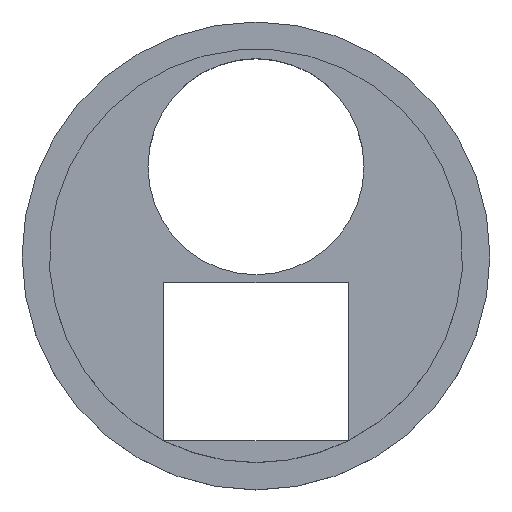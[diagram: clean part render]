
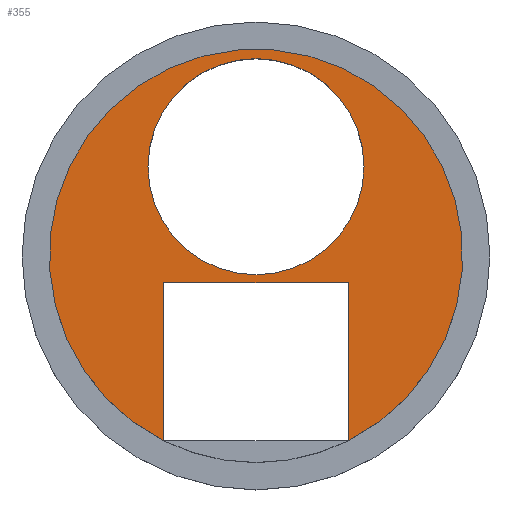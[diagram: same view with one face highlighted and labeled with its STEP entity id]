
A CAD part, top view. The second image highlights one B-rep face of the part: STEP entity #355.
In plain terms, the highlighted planar face has unit normal (0, 0, 1).
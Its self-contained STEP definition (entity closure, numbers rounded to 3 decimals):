
#209 = PLANE('',#210);
#210 = AXIS2_PLACEMENT_3D('',#211,#212,#213);
#211 = CARTESIAN_POINT('',(-8.3,-16.6,-6.));
#212 = DIRECTION('',(1.,0.,-0.));
#213 = DIRECTION('',(0.,0.,1.));
#235 = PLANE('',#236);
#236 = AXIS2_PLACEMENT_3D('',#237,#238,#239);
#237 = CARTESIAN_POINT('',(-8.3,-2.4,-6.));
#238 = DIRECTION('',(-0.,1.,0.));
#239 = DIRECTION('',(0.,0.,1.));
#259 = PLANE('',#260);
#260 = AXIS2_PLACEMENT_3D('',#261,#262,#263);
#261 = CARTESIAN_POINT('',(8.3,-16.6,-6.));
#262 = DIRECTION('',(1.,0.,-0.));
#263 = DIRECTION('',(0.,0.,1.));
#289 = CYLINDRICAL_SURFACE('',#290,9.7);
#290 = AXIS2_PLACEMENT_3D('',#291,#292,#293);
#291 = CARTESIAN_POINT('',(0.,8.,-6.));
#292 = DIRECTION('',(0.,0.,1.));
#293 = DIRECTION('',(1.,0.,-0.));
#304 = EDGE_CURVE('',#305,#305,#307,.T.);
#305 = VERTEX_POINT('',#306);
#306 = CARTESIAN_POINT('',(9.7,8.,7.));
#307 = SURFACE_CURVE('',#308,(#313,#320),.PCURVE_S1.);
#308 = CIRCLE('',#309,9.7);
#309 = AXIS2_PLACEMENT_3D('',#310,#311,#312);
#310 = CARTESIAN_POINT('',(0.,8.,7.));
#311 = DIRECTION('',(0.,0.,1.));
#312 = DIRECTION('',(1.,0.,-0.));
#313 = PCURVE('',#289,#314);
#314 = DEFINITIONAL_REPRESENTATION('',(#315),#319);
#315 = LINE('',#316,#317);
#316 = CARTESIAN_POINT('',(0.,13.));
#317 = VECTOR('',#318,1.);
#318 = DIRECTION('',(1.,0.));
#319 = ( GEOMETRIC_REPRESENTATION_CONTEXT(2) 
PARAMETRIC_REPRESENTATION_CONTEXT() REPRESENTATION_CONTEXT('2D SPACE',''
  ) );
#320 = PCURVE('',#321,#326);
#321 = PLANE('',#322);
#322 = AXIS2_PLACEMENT_3D('',#323,#324,#325);
#323 = CARTESIAN_POINT('',(0.,0.,7.));
#324 = DIRECTION('',(0.,0.,1.));
#325 = DIRECTION('',(1.,0.,-0.));
#326 = DEFINITIONAL_REPRESENTATION('',(#327),#331);
#327 = CIRCLE('',#328,9.7);
#328 = AXIS2_PLACEMENT_2D('',#329,#330);
#329 = CARTESIAN_POINT('',(0.,8.));
#330 = DIRECTION('',(1.,0.));
#331 = ( GEOMETRIC_REPRESENTATION_CONTEXT(2) 
PARAMETRIC_REPRESENTATION_CONTEXT() REPRESENTATION_CONTEXT('2D SPACE',''
  ) );
#355 = ADVANCED_FACE('',(#356,#454),#321,.T.);
#356 = FACE_BOUND('',#357,.T.);
#357 = EDGE_LOOP('',(#358,#381,#414,#435));
#358 = ORIENTED_EDGE('',*,*,#359,.F.);
#359 = EDGE_CURVE('',#360,#362,#364,.T.);
#360 = VERTEX_POINT('',#361);
#361 = CARTESIAN_POINT('',(8.3,-16.59,7.));
#362 = VERTEX_POINT('',#363);
#363 = CARTESIAN_POINT('',(8.3,-2.4,7.));
#364 = SURFACE_CURVE('',#365,(#369,#375),.PCURVE_S1.);
#365 = LINE('',#366,#367);
#366 = CARTESIAN_POINT('',(8.3,-8.3,7.));
#367 = VECTOR('',#368,1.);
#368 = DIRECTION('',(-0.,1.,0.));
#369 = PCURVE('',#321,#370);
#370 = DEFINITIONAL_REPRESENTATION('',(#371),#374);
#371 = B_SPLINE_CURVE_WITH_KNOTS('',1,(#372,#373),.UNSPECIFIED.,.F.,.F.,
  (2,2),(-8.3,5.9),.PIECEWISE_BEZIER_KNOTS.);
#372 = CARTESIAN_POINT('',(8.3,-16.6));
#373 = CARTESIAN_POINT('',(8.3,-2.4));
#374 = ( GEOMETRIC_REPRESENTATION_CONTEXT(2) 
PARAMETRIC_REPRESENTATION_CONTEXT() REPRESENTATION_CONTEXT('2D SPACE',''
  ) );
#375 = PCURVE('',#259,#376);
#376 = DEFINITIONAL_REPRESENTATION('',(#377),#380);
#377 = B_SPLINE_CURVE_WITH_KNOTS('',1,(#378,#379),.UNSPECIFIED.,.F.,.F.,
  (2,2),(-8.3,5.9),.PIECEWISE_BEZIER_KNOTS.);
#378 = CARTESIAN_POINT('',(13.,0.));
#379 = CARTESIAN_POINT('',(13.,-14.2));
#380 = ( GEOMETRIC_REPRESENTATION_CONTEXT(2) 
PARAMETRIC_REPRESENTATION_CONTEXT() REPRESENTATION_CONTEXT('2D SPACE',''
  ) );
#381 = ORIENTED_EDGE('',*,*,#382,.F.);
#382 = EDGE_CURVE('',#383,#360,#385,.T.);
#383 = VERTEX_POINT('',#384);
#384 = CARTESIAN_POINT('',(-8.3,-16.59,7.));
#385 = SURFACE_CURVE('',#386,(#391,#402),.PCURVE_S1.);
#386 = CIRCLE('',#387,18.55);
#387 = AXIS2_PLACEMENT_3D('',#388,#389,#390);
#388 = CARTESIAN_POINT('',(0.,0.,7.));
#389 = DIRECTION('',(-0.,0.,-1.));
#390 = DIRECTION('',(-0.447,-0.894,0.));
#391 = PCURVE('',#321,#392);
#392 = DEFINITIONAL_REPRESENTATION('',(#393),#401);
#393 = ( BOUNDED_CURVE() B_SPLINE_CURVE(2,(#394,#395,#396,#397,#398,#399
,#400),.UNSPECIFIED.,.T.,.F.) B_SPLINE_CURVE_WITH_KNOTS((1,2,2,2,2,1),(
    -2.094,0.,2.094,4.189,6.283,
8.378),.UNSPECIFIED.) CURVE() GEOMETRIC_REPRESENTATION_ITEM() 
RATIONAL_B_SPLINE_CURVE((1.,0.5,1.,0.5,1.,0.5,1.)) REPRESENTATION_ITEM(
  '') );
#394 = CARTESIAN_POINT('',(-8.3,-16.59));
#395 = CARTESIAN_POINT('',(-37.034,-2.214));
#396 = CARTESIAN_POINT('',(-10.217,15.483));
#397 = CARTESIAN_POINT('',(16.6,33.179));
#398 = CARTESIAN_POINT('',(18.517,1.107));
#399 = CARTESIAN_POINT('',(20.434,-30.966));
#400 = CARTESIAN_POINT('',(-8.3,-16.59));
#401 = ( GEOMETRIC_REPRESENTATION_CONTEXT(2) 
PARAMETRIC_REPRESENTATION_CONTEXT() REPRESENTATION_CONTEXT('2D SPACE',''
  ) );
#402 = PCURVE('',#403,#408);
#403 = CYLINDRICAL_SURFACE('',#404,18.55);
#404 = AXIS2_PLACEMENT_3D('',#405,#406,#407);
#405 = CARTESIAN_POINT('',(0.,0.,0.));
#406 = DIRECTION('',(0.,0.,1.));
#407 = DIRECTION('',(1.,0.,-0.));
#408 = DEFINITIONAL_REPRESENTATION('',(#409),#413);
#409 = LINE('',#410,#411);
#410 = CARTESIAN_POINT('',(10.532,7.));
#411 = VECTOR('',#412,1.);
#412 = DIRECTION('',(-1.,-0.));
#413 = ( GEOMETRIC_REPRESENTATION_CONTEXT(2) 
PARAMETRIC_REPRESENTATION_CONTEXT() REPRESENTATION_CONTEXT('2D SPACE',''
  ) );
#414 = ORIENTED_EDGE('',*,*,#415,.T.);
#415 = EDGE_CURVE('',#383,#416,#418,.T.);
#416 = VERTEX_POINT('',#417);
#417 = CARTESIAN_POINT('',(-8.3,-2.4,7.));
#418 = SURFACE_CURVE('',#419,(#423,#429),.PCURVE_S1.);
#419 = LINE('',#420,#421);
#420 = CARTESIAN_POINT('',(-8.3,-8.3,7.));
#421 = VECTOR('',#422,1.);
#422 = DIRECTION('',(-0.,1.,0.));
#423 = PCURVE('',#321,#424);
#424 = DEFINITIONAL_REPRESENTATION('',(#425),#428);
#425 = B_SPLINE_CURVE_WITH_KNOTS('',1,(#426,#427),.UNSPECIFIED.,.F.,.F.,
  (2,2),(-8.3,5.9),.PIECEWISE_BEZIER_KNOTS.);
#426 = CARTESIAN_POINT('',(-8.3,-16.6));
#427 = CARTESIAN_POINT('',(-8.3,-2.4));
#428 = ( GEOMETRIC_REPRESENTATION_CONTEXT(2) 
PARAMETRIC_REPRESENTATION_CONTEXT() REPRESENTATION_CONTEXT('2D SPACE',''
  ) );
#429 = PCURVE('',#209,#430);
#430 = DEFINITIONAL_REPRESENTATION('',(#431),#434);
#431 = B_SPLINE_CURVE_WITH_KNOTS('',1,(#432,#433),.UNSPECIFIED.,.F.,.F.,
  (2,2),(-8.3,5.9),.PIECEWISE_BEZIER_KNOTS.);
#432 = CARTESIAN_POINT('',(13.,0.));
#433 = CARTESIAN_POINT('',(13.,-14.2));
#434 = ( GEOMETRIC_REPRESENTATION_CONTEXT(2) 
PARAMETRIC_REPRESENTATION_CONTEXT() REPRESENTATION_CONTEXT('2D SPACE',''
  ) );
#435 = ORIENTED_EDGE('',*,*,#436,.F.);
#436 = EDGE_CURVE('',#362,#416,#437,.T.);
#437 = SURFACE_CURVE('',#438,(#442,#448),.PCURVE_S1.);
#438 = LINE('',#439,#440);
#439 = CARTESIAN_POINT('',(-4.15,-2.4,7.));
#440 = VECTOR('',#441,1.);
#441 = DIRECTION('',(-1.,-0.,0.));
#442 = PCURVE('',#321,#443);
#443 = DEFINITIONAL_REPRESENTATION('',(#444),#447);
#444 = B_SPLINE_CURVE_WITH_KNOTS('',1,(#445,#446),.UNSPECIFIED.,.F.,.F.,
  (2,2),(-12.45,4.15),.PIECEWISE_BEZIER_KNOTS.);
#445 = CARTESIAN_POINT('',(8.3,-2.4));
#446 = CARTESIAN_POINT('',(-8.3,-2.4));
#447 = ( GEOMETRIC_REPRESENTATION_CONTEXT(2) 
PARAMETRIC_REPRESENTATION_CONTEXT() REPRESENTATION_CONTEXT('2D SPACE',''
  ) );
#448 = PCURVE('',#235,#449);
#449 = DEFINITIONAL_REPRESENTATION('',(#450),#453);
#450 = B_SPLINE_CURVE_WITH_KNOTS('',1,(#451,#452),.UNSPECIFIED.,.F.,.F.,
  (2,2),(-12.45,4.15),.PIECEWISE_BEZIER_KNOTS.);
#451 = CARTESIAN_POINT('',(13.,16.6));
#452 = CARTESIAN_POINT('',(13.,0.));
#453 = ( GEOMETRIC_REPRESENTATION_CONTEXT(2) 
PARAMETRIC_REPRESENTATION_CONTEXT() REPRESENTATION_CONTEXT('2D SPACE',''
  ) );
#454 = FACE_BOUND('',#455,.T.);
#455 = EDGE_LOOP('',(#456));
#456 = ORIENTED_EDGE('',*,*,#304,.F.);
